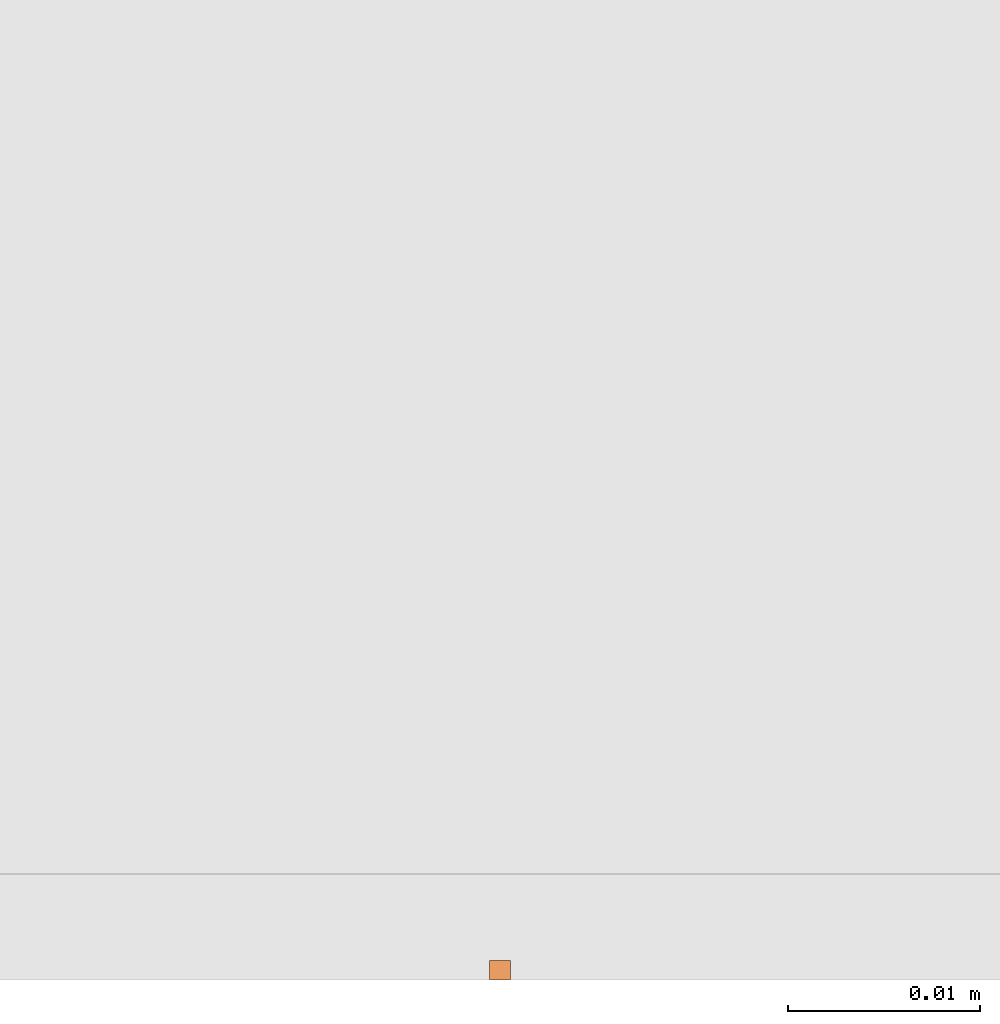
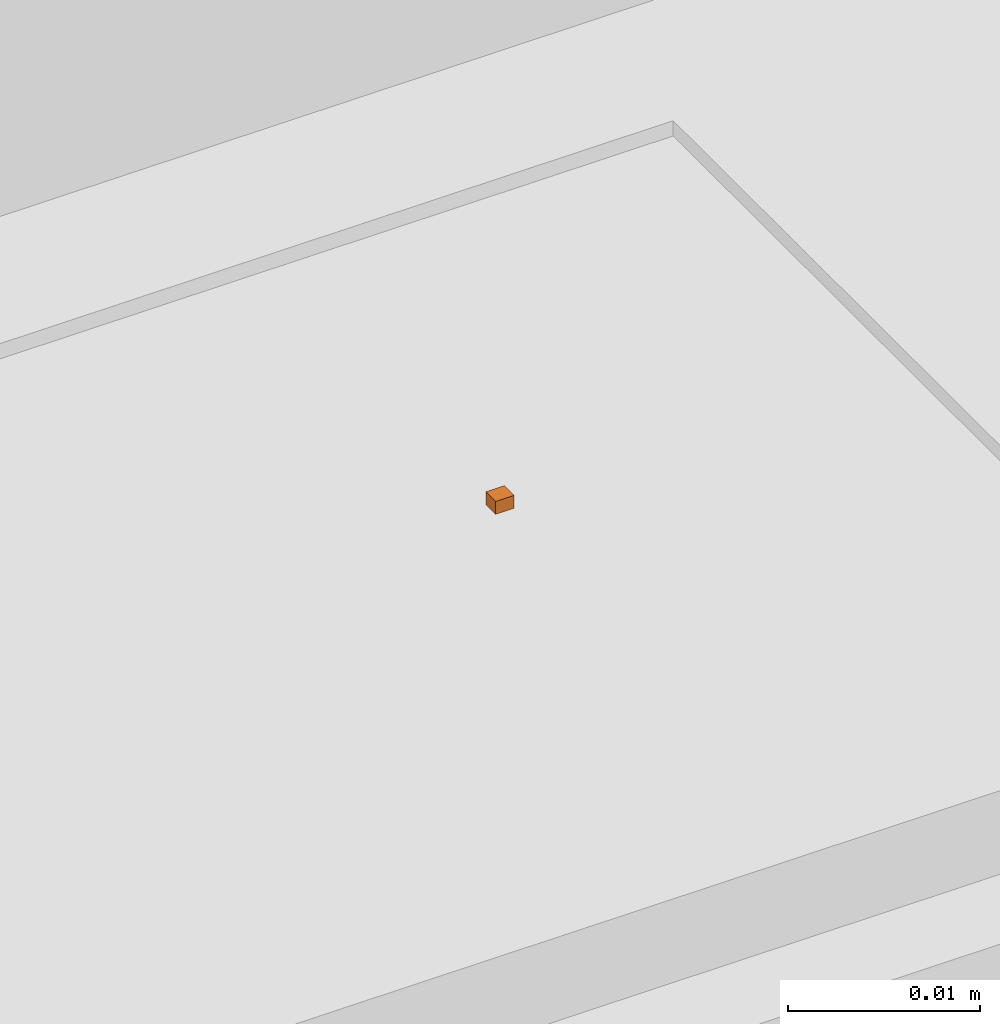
# One storey, part 2 of 2: 1 proxy.
"""IFC2X3 building model written with IfcOpenShell, lengths in feet."""

from ifc_helpers import new_model, entity, si_unit, converted_unit, derived_unit, direction, frame, origin, origin_2d_with_axis, place, context, subcontext, project, spatial, rectangle, extrude, source, transform, mapped, type_object, type_shapes, element, save


model = new_model("IFC2X3")

# Units and contexts
model_context = context("Model", 3, precision=0.0001, world=origin(), true_north=direction((6.12303176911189e-17, 1.0)))
body_context = subcontext(model_context, "Body", "Model", "MODEL_VIEW")
ifc_project = project(units=[converted_unit("LENGTHUNIT", "FOOT", entity("IfcRatioMeasure", 0.3048), si_unit("LENGTHUNIT", "METRE"), dimensions=[1, 0, 0, 0, 0, 0, 0]), converted_unit("AREAUNIT", "SQUARE FOOT", entity("IfcRatioMeasure", 0.09290304), si_unit("AREAUNIT", "SQUARE_METRE"), dimensions=[2, 0, 0, 0, 0, 0, 0]), converted_unit("VOLUMEUNIT", "CUBIC FOOT", entity("IfcRatioMeasure", 0.028316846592), si_unit("VOLUMEUNIT", "CUBIC_METRE"), dimensions=[3, 0, 0, 0, 0, 0, 0]), converted_unit("PLANEANGLEUNIT", "DEGREE", entity("IfcRatioMeasure", 0.0174532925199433), si_unit("PLANEANGLEUNIT", "RADIAN"), dimensions=[0, 0, 0, 0, 0, 0, 0]), si_unit("MASSUNIT", "GRAM", prefix="KILO"), derived_unit("MASSDENSITYUNIT", [(si_unit("MASSUNIT", "GRAM", prefix="KILO"), 1), (si_unit("LENGTHUNIT", "METRE"), -3)]), si_unit("TIMEUNIT", "SECOND"), si_unit("FREQUENCYUNIT", "HERTZ"), si_unit("THERMODYNAMICTEMPERATUREUNIT", "DEGREE_CELSIUS"), derived_unit("THERMALTRANSMITTANCEUNIT", [(si_unit("MASSUNIT", "GRAM", prefix="KILO"), 1), (si_unit("THERMODYNAMICTEMPERATUREUNIT", "KELVIN"), -1), (si_unit("TIMEUNIT", "SECOND"), -3)]), derived_unit("VOLUMETRICFLOWRATEUNIT", [(si_unit("LENGTHUNIT", "METRE"), 3), (si_unit("TIMEUNIT", "SECOND"), -1)]), si_unit("ELECTRICCURRENTUNIT", "AMPERE"), si_unit("ELECTRICVOLTAGEUNIT", "VOLT"), si_unit("POWERUNIT", "WATT"), si_unit("FORCEUNIT", "NEWTON"), si_unit("ILLUMINANCEUNIT", "LUX"), si_unit("LUMINOUSFLUXUNIT", "LUMEN"), si_unit("LUMINOUSINTENSITYUNIT", "CANDELA"), derived_unit("USERDEFINED", [(si_unit("MASSUNIT", "GRAM", prefix="KILO"), -1), (si_unit("LENGTHUNIT", "METRE"), -2), (si_unit("TIMEUNIT", "SECOND"), 3), (si_unit("LUMINOUSFLUXUNIT", "LUMEN"), 1)]), derived_unit("LINEARVELOCITYUNIT", [(si_unit("LENGTHUNIT", "METRE"), 1), (si_unit("TIMEUNIT", "SECOND"), -1)]), si_unit("PRESSUREUNIT", "PASCAL"), derived_unit("USERDEFINED", [(si_unit("LENGTHUNIT", "METRE"), -2), (si_unit("MASSUNIT", "GRAM", prefix="KILO"), 1), (si_unit("TIMEUNIT", "SECOND"), -2)])], contexts=[model_context])

# Site, building, storey
site_placement = place(None, origin())
site = spatial("IfcSite", under=ifc_project, at=site_placement, Name="Default", CompositionType="ELEMENT")
building_placement = place(site_placement, origin())
building = spatial("IfcBuilding", under=site, at=building_placement, CompositionType="ELEMENT")
storey_placement = place(building_placement, origin())
storey = spatial("IfcBuildingStorey", under=building, at=storey_placement, Name="Level 1", CompositionType="ELEMENT", Elevation=0.0)

# Proxy
building_element_proxy_type = type_object("IfcBuildingElementProxyType", Name="None", PredefinedType="NOTDEFINED")
shared_shape = source(origin(), body_context, "Body", "SweptSolid", [
    extrude(rectangle(XDim=0.00333251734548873, YDim=0.00361925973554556, at=origin_2d_with_axis()), frame((0.00166625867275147, -0.00180962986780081, -0.164041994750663), z_axis=(0.0, 0.0, 1.0), x_axis=(-1.0, 0.0, 0.0)), (0.0, 0.0, 1.0), 0.00266797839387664),
])
type_shapes(building_element_proxy_type, [shared_shape])
proxy_placement = place(storey_placement, frame((-6.34406545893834, 6.06131005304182, 3.78701370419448), z_axis=(0.0, 0.0, -1.0), x_axis=(0.0, -1.0, 0.0)))
element("IfcBuildingElementProxy", 1, at=proxy_placement, inside=storey, type_object=building_element_proxy_type, Name="None 3:None", ObjectType="None 3:None", context=body_context, shape_type="MappedRepresentation", body=[
    mapped(shared_shape, transform((0.0, 0.0, 0.0), scale=1.0)),
])

save(model, "model.ifc")
